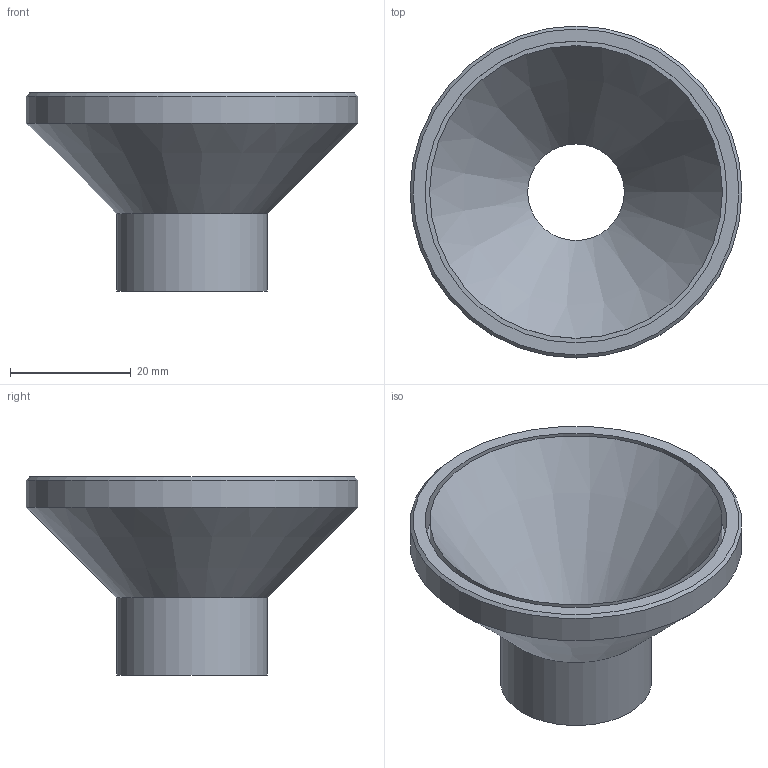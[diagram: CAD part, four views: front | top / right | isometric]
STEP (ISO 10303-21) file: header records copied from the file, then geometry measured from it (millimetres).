
FILE_DESCRIPTION(('FreeCAD Model'),'2;1');
FILE_NAME('Open CASCADE Shape Model','2024-11-17T12:04:58',(''),(''), 'Open CASCADE STEP processor 7.6','FreeCAD','Unknown');
FILE_SCHEMA(('AUTOMOTIVE_DESIGN { 1 0 10303 214 1 1 1 1 }'));
Length unit declared in the file: millimetre
Products named in the file (1): Reservoir Adapter mod Awacs_v2_Trichter
Bounding box: 55 x 55 x 32.81 mm (x, y, z)
Volume: 13948.7 mm3; surface area: 10315.6 mm2
Topology: 1 solids, 1 shells, 12 faces, 20 edges, 12 vertices
Faces by surface type: cylinder 5, plane 4, cone 3
Full cylindrical faces by diameter (mm): 20 x1, 25 x1, 48.5 x1, 50 x1, 55 x1
Entity records: 310 total; most frequent: DIRECTION 58, CARTESIAN_POINT 45, ORIENTED_EDGE 40, AXIS2_PLACEMENT_3D 25, EDGE_CURVE 20, FACE_BOUND 16, EDGE_LOOP 16, ADVANCED_FACE 12
